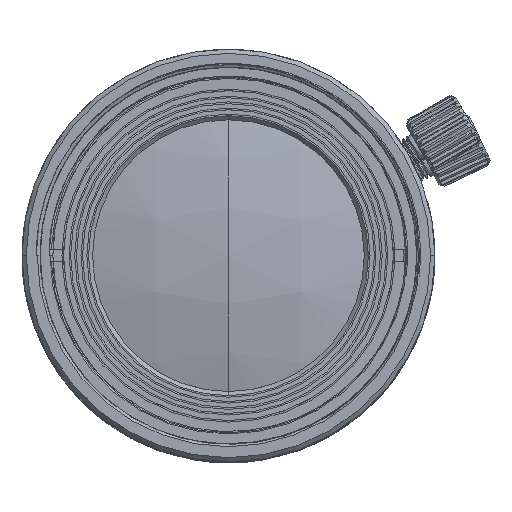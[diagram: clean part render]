
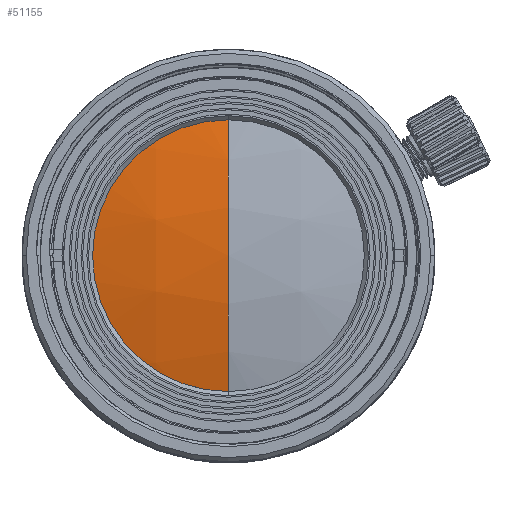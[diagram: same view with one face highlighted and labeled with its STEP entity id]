
A CAD part, top view. The second image highlights one B-rep face of the part: STEP entity #51155.
In plain terms, the highlighted spherical face has radius 40.489 mm.
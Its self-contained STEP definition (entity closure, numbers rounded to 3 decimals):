
#13498 = AXIS2_PLACEMENT_3D ( 'NONE', #201346, #86937, #268126 ) ;
#14818 = CARTESIAN_POINT ( 'NONE',  ( 0., 0., -3.467 ) ) ;
#15521 = AXIS2_PLACEMENT_3D ( 'NONE', #78978, #148610, #173461 ) ;
#21725 = ORIENTED_EDGE ( 'NONE', *, *, #69813, .T. ) ;
#34124 = SPHERICAL_SURFACE ( 'NONE', #13498, 40.489 ) ;
#40791 = CARTESIAN_POINT ( 'NONE',  ( 0., 0., 37.022 ) ) ;
#51155 = ADVANCED_FACE ( 'NONE', ( #101920 ), #34124, .T. ) ;
#58043 = VERTEX_POINT ( 'NONE', #40791 ) ;
#62347 = CARTESIAN_POINT ( 'NONE',  ( 0., 10.05, 35.755 ) ) ;
#69813 = EDGE_CURVE ( 'NONE', #58043, #236788, #172953, .T. ) ;
#76788 = CIRCLE ( 'NONE', #15521, 10.05 ) ;
#77959 = EDGE_CURVE ( 'NONE', #58043, #207571, #158523, .T. ) ;
#78978 = CARTESIAN_POINT ( 'NONE',  ( 0., 0., 35.755 ) ) ;
#86937 = DIRECTION ( 'NONE',  ( 1., 0., 0. ) ) ;
#92448 = DIRECTION ( 'NONE',  ( 1., 0., 0. ) ) ;
#101920 = FACE_OUTER_BOUND ( 'NONE', #291705, .T. ) ;
#105261 = ORIENTED_EDGE ( 'NONE', *, *, #120161, .T. ) ;
#112166 = AXIS2_PLACEMENT_3D ( 'NONE', #14818, #194899, #174014 ) ;
#120161 = EDGE_CURVE ( 'NONE', #236788, #207571, #76788, .T. ) ;
#146922 = ORIENTED_EDGE ( 'NONE', *, *, #77959, .F. ) ;
#148610 = DIRECTION ( 'NONE',  ( 0., 0., 1. ) ) ;
#157073 = DIRECTION ( 'NONE',  ( 0., 1., 0. ) ) ;
#158523 = CIRCLE ( 'NONE', #231544, 40.489 ) ;
#172953 = CIRCLE ( 'NONE', #112166, 40.489 ) ;
#173461 = DIRECTION ( 'NONE',  ( 0., -1., 0. ) ) ;
#174014 = DIRECTION ( 'NONE',  ( 0., 0., 1. ) ) ;
#194899 = DIRECTION ( 'NONE',  ( -1., 0., 0. ) ) ;
#201346 = CARTESIAN_POINT ( 'NONE',  ( 0., 0., -3.467 ) ) ;
#207571 = VERTEX_POINT ( 'NONE', #248747 ) ;
#231544 = AXIS2_PLACEMENT_3D ( 'NONE', #273620, #92448, #157073 ) ;
#236788 = VERTEX_POINT ( 'NONE', #62347 ) ;
#248747 = CARTESIAN_POINT ( 'NONE',  ( 0., -10.05, 35.755 ) ) ;
#268126 = DIRECTION ( 'NONE',  ( 0., 1., 0. ) ) ;
#273620 = CARTESIAN_POINT ( 'NONE',  ( 0., 0., -3.467 ) ) ;
#291705 = EDGE_LOOP ( 'NONE', ( #146922, #21725, #105261 ) ) ;
